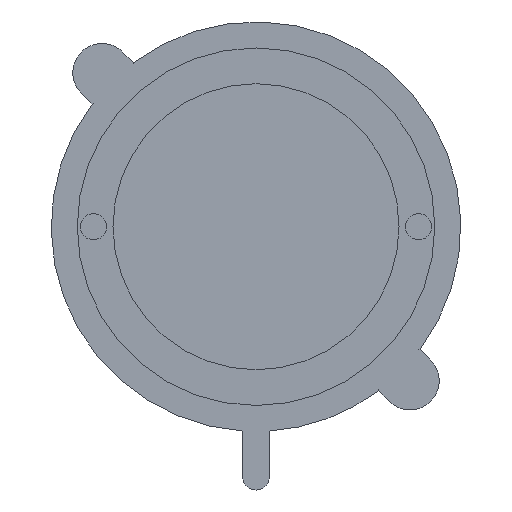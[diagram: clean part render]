
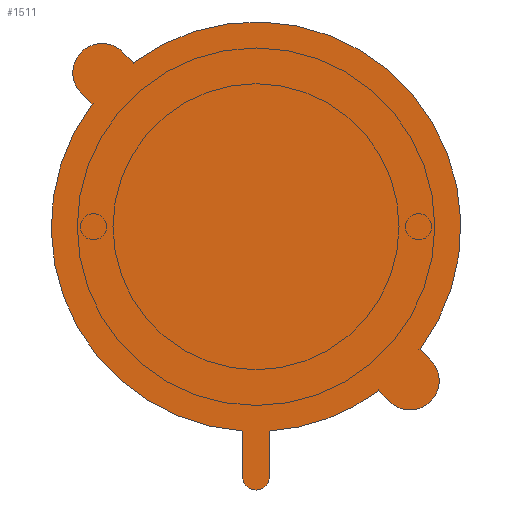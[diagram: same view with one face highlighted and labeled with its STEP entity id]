
A CAD part, top view. The second image highlights one B-rep face of the part: STEP entity #1511.
In plain terms, the highlighted planar face has unit normal (0, 0, 1).
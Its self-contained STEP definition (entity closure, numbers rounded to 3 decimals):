
#1511=ADVANCED_FACE('',(#2009),#1708,.T.);
#1708=PLANE('',#7762);
#2009=FACE_OUTER_BOUND('',#2554,.T.);
#2554=EDGE_LOOP('',(#4319,#4320,#4321,#4322,#4323,#4324,#4325,#4326,#4327,
#4328,#4329,#4330));
#4319=ORIENTED_EDGE('',*,*,#5891,.F.);
#4320=ORIENTED_EDGE('',*,*,#5893,.F.);
#4321=ORIENTED_EDGE('',*,*,#5894,.F.);
#4322=ORIENTED_EDGE('',*,*,#5864,.F.);
#4323=ORIENTED_EDGE('',*,*,#5921,.F.);
#4324=ORIENTED_EDGE('',*,*,#5919,.F.);
#4325=ORIENTED_EDGE('',*,*,#5917,.F.);
#4326=ORIENTED_EDGE('',*,*,#5862,.F.);
#4327=ORIENTED_EDGE('',*,*,#5923,.F.);
#4328=ORIENTED_EDGE('',*,*,#5925,.F.);
#4329=ORIENTED_EDGE('',*,*,#5926,.F.);
#4330=ORIENTED_EDGE('',*,*,#5868,.F.);
#4982=VERTEX_POINT('',#15899);
#4983=VERTEX_POINT('',#15901);
#4984=VERTEX_POINT('',#15908);
#4985=VERTEX_POINT('',#15909);
#4986=VERTEX_POINT('',#15923);
#4987=VERTEX_POINT('',#15925);
#5003=VERTEX_POINT('',#16015);
#5004=VERTEX_POINT('',#16019);
#5021=VERTEX_POINT('',#16077);
#5022=VERTEX_POINT('',#16081);
#5023=VERTEX_POINT('',#16087);
#5024=VERTEX_POINT('',#16091);
#5862=EDGE_CURVE('',#4982,#4983,#7088,.T.);
#5864=EDGE_CURVE('',#4984,#4985,#7089,.T.);
#5868=EDGE_CURVE('',#4986,#4987,#7090,.T.);
#5891=EDGE_CURVE('',#5003,#4986,#6338,.T.);
#5893=EDGE_CURVE('',#5004,#5003,#7103,.T.);
#5894=EDGE_CURVE('',#4985,#5004,#6340,.T.);
#5917=EDGE_CURVE('',#4983,#5021,#6353,.T.);
#5919=EDGE_CURVE('',#5021,#5022,#7114,.T.);
#5921=EDGE_CURVE('',#5022,#4984,#6356,.T.);
#5923=EDGE_CURVE('',#5023,#4982,#6358,.T.);
#5925=EDGE_CURVE('',#5024,#5023,#7115,.T.);
#5926=EDGE_CURVE('',#4987,#5024,#6360,.T.);
#6338=LINE('',#16016,#6784);
#6340=LINE('',#16022,#6786);
#6353=LINE('',#16076,#6799);
#6356=LINE('',#16084,#6802);
#6358=LINE('',#16088,#6804);
#6360=LINE('',#16094,#6806);
#6784=VECTOR('',#9388,1.);
#6786=VECTOR('',#9396,1.);
#6799=VECTOR('',#9459,1.);
#6802=VECTOR('',#9468,1.);
#6804=VECTOR('',#9472,1.);
#6806=VECTOR('',#9480,1.);
#7088=CIRCLE('',#7694,31.5);
#7089=CIRCLE('',#7696,31.5);
#7090=CIRCLE('',#7698,31.5);
#7103=CIRCLE('',#7725,2.05);
#7114=CIRCLE('',#7753,4.5);
#7115=CIRCLE('',#7757,4.5);
#7694=AXIS2_PLACEMENT_3D('',#15900,#9321,#9322);
#7696=AXIS2_PLACEMENT_3D('',#15907,#9325,#9326);
#7698=AXIS2_PLACEMENT_3D('',#15924,#9329,#9330);
#7725=AXIS2_PLACEMENT_3D('',#16020,#9392,#9393);
#7753=AXIS2_PLACEMENT_3D('',#16080,#9463,#9464);
#7757=AXIS2_PLACEMENT_3D('',#16092,#9476,#9477);
#7762=AXIS2_PLACEMENT_3D('',#16098,#9487,#9488);
#9321=DIRECTION('',(0.,0.,-1.));
#9322=DIRECTION('',(1.,0.,0.));
#9325=DIRECTION('',(0.,0.,-1.));
#9326=DIRECTION('',(1.,0.,0.));
#9329=DIRECTION('',(0.,0.,-1.));
#9330=DIRECTION('',(1.,0.,0.));
#9388=DIRECTION('',(0.,1.,0.));
#9392=DIRECTION('',(0.,0.,-1.));
#9393=DIRECTION('',(1.,0.,0.));
#9396=DIRECTION('',(0.,-1.,0.));
#9459=DIRECTION('',(0.707,-0.707,0.));
#9463=DIRECTION('',(0.,0.,-1.));
#9464=DIRECTION('',(1.,0.,0.));
#9468=DIRECTION('',(-0.707,0.707,0.));
#9472=DIRECTION('',(0.707,-0.707,0.));
#9476=DIRECTION('',(0.,0.,-1.));
#9477=DIRECTION('',(1.,0.,0.));
#9480=DIRECTION('',(-0.707,0.707,0.));
#9487=DIRECTION('',(0.,0.,1.));
#9488=DIRECTION('',(1.,0.,0.));
#15899=CARTESIAN_POINT('',(-20.197,24.477,38.104));
#15900=CARTESIAN_POINT('',(-1.333,-0.75,38.104));
#15901=CARTESIAN_POINT('',(23.894,-19.613,38.104));
#15907=CARTESIAN_POINT('',(-1.333,-0.75,38.104));
#15908=CARTESIAN_POINT('',(17.53,-25.977,38.104));
#15909=CARTESIAN_POINT('',(0.717,-32.183,38.104));
#15923=CARTESIAN_POINT('',(-3.383,-32.183,38.104));
#15924=CARTESIAN_POINT('',(-1.333,-0.75,38.104));
#15925=CARTESIAN_POINT('',(-26.561,18.113,38.104));
#16015=CARTESIAN_POINT('',(-3.383,-39.2,38.104));
#16016=CARTESIAN_POINT('',(-3.383,-32.212,38.104));
#16019=CARTESIAN_POINT('',(0.717,-39.2,38.104));
#16020=CARTESIAN_POINT('',(-1.333,-39.2,38.104));
#16022=CARTESIAN_POINT('',(0.717,-39.2,38.104));
#16076=CARTESIAN_POINT('',(1.849,2.432,38.104));
#16077=CARTESIAN_POINT('',(25.537,-21.256,38.104));
#16080=CARTESIAN_POINT('',(22.355,-24.438,38.104));
#16081=CARTESIAN_POINT('',(19.173,-27.62,38.104));
#16084=CARTESIAN_POINT('',(-4.515,-3.932,38.104));
#16087=CARTESIAN_POINT('',(-21.839,26.12,38.104));
#16088=CARTESIAN_POINT('',(1.849,2.432,38.104));
#16091=CARTESIAN_POINT('',(-28.203,19.756,38.104));
#16092=CARTESIAN_POINT('',(-25.021,22.938,38.104));
#16094=CARTESIAN_POINT('',(-4.515,-3.932,38.104));
#16098=CARTESIAN_POINT('',(-1.333,-0.75,38.104));
